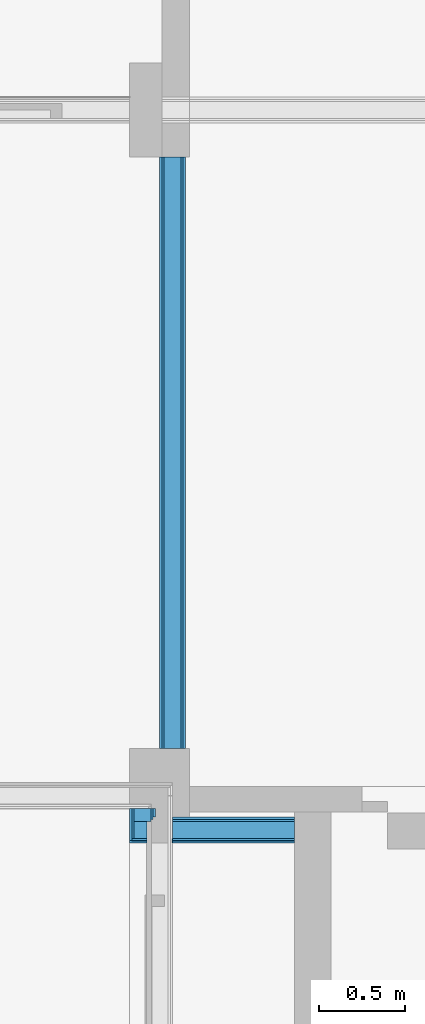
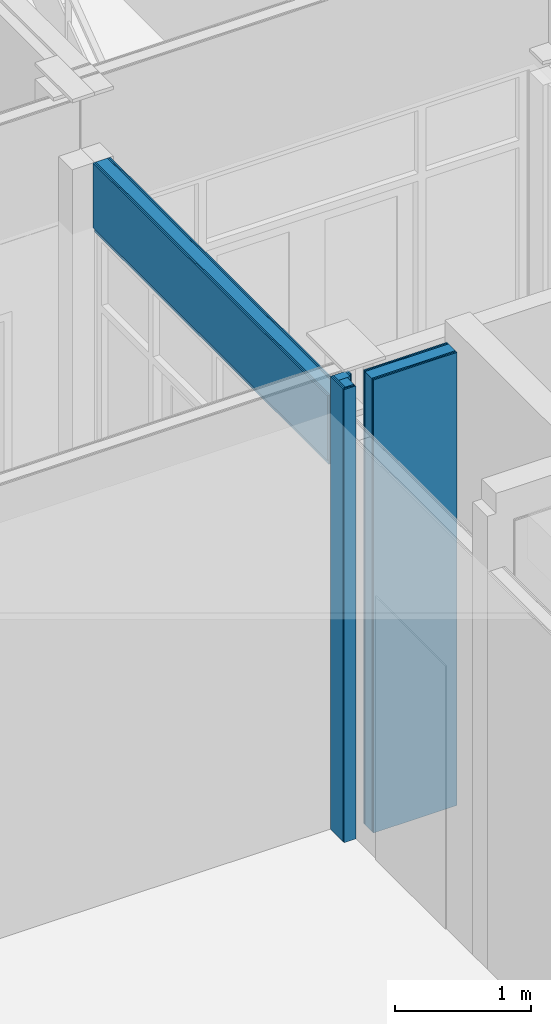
# One storey, part 65 of 109: 15 building element parts, 1 opening, 3 elements without a shape of their own.
"""IFC2X3 building model written with IfcOpenShell, lengths in millimetres."""

from ifc_helpers import new_model, entity, si_unit, converted_unit, derived_unit, money_unit, direction, frame, origin_with_axes, place, context, subcontext, project, spatial, faceted_brep, material, type_object, element, aggregate, save


model = new_model("IFC2X3")

# Units and contexts
model_context = context("Model", 3, precision=0.01, world=origin_with_axes(), true_north=direction((0.0, 1.0)))
body_context = subcontext(model_context, "Body", "Model", "MODEL_VIEW")
ifc_project = project(units=[si_unit("LENGTHUNIT", "METRE", prefix="MILLI"), si_unit("AREAUNIT", "SQUARE_METRE"), si_unit("VOLUMEUNIT", "CUBIC_METRE"), converted_unit("PLANEANGLEUNIT", "DEGREE", entity("IfcPlaneAngleMeasure", 0.0174532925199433), si_unit("PLANEANGLEUNIT", "RADIAN"), dimensions=[0, 0, 0, 0, 0, 0, 0]), money_unit("EUR"), converted_unit("TIMEUNIT", "Year", entity("IfcTimeMeasure", 31557600.0), si_unit("TIMEUNIT", "SECOND"), dimensions=[0, 0, 1, 0, 0, 0, 0]), si_unit("MASSUNIT", "GRAM", prefix="KILO"), si_unit("THERMODYNAMICTEMPERATUREUNIT", "DEGREE_CELSIUS"), si_unit("LUMINOUSINTENSITYUNIT", "LUMEN"), si_unit("ENERGYUNIT", "JOULE", prefix="MEGA"), derived_unit("THERMALCONDUCTANCEUNIT", [(si_unit("POWERUNIT", "WATT"), 1), (si_unit("LENGTHUNIT", "METRE"), -1), (si_unit("THERMODYNAMICTEMPERATUREUNIT", "KELVIN"), -1)]), derived_unit("SPECIFICHEATCAPACITYUNIT", [(si_unit("ENERGYUNIT", "JOULE"), 1), (si_unit("MASSUNIT", "GRAM", prefix="KILO"), -1), (si_unit("THERMODYNAMICTEMPERATUREUNIT", "KELVIN"), -1)]), derived_unit("MASSDENSITYUNIT", [(si_unit("MASSUNIT", "GRAM", prefix="KILO"), 1), (si_unit("VOLUMEUNIT", "CUBIC_METRE"), -1)])], contexts=[model_context])

# Site, building, storey
site_placement = place(None, origin_with_axes())
site = spatial("IfcSite", under=ifc_project, at=site_placement, Name="<site naam>", CompositionType="ELEMENT")
building_placement = place(site_placement, origin_with_axes())
building = spatial("IfcBuilding", under=site, at=building_placement, Name="<Naam gebouw>", CompositionType="ELEMENT")
storey_placement = place(building_placement, origin_with_axes())
storey = spatial("IfcBuildingStorey", under=building, at=storey_placement, Name="00 Begane grond", CompositionType="ELEMENT", Elevation=0.0)

# Wall, opening, building element parts
wall_type = type_object("IfcWallType", Name="MS-01 GF 150 ECO DGS/2.100.2.A 150", PredefinedType="NOTDEFINED")
wall_1_placement = place(storey_placement, frame((48000.00000000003, 8275.000000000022, 0.0), z_axis=(0.0, 0.0, 1.0), x_axis=(0.0, 1.0, 0.0)))
wall_1 = element("IfcWall", 1, at=wall_1_placement, inside=storey, type_object=wall_type, Name="22_Binnenwand_MS-01")
opening_placement = place(wall_1_placement, frame((1725.0, 0.0, 0.0), z_axis=(0.0, 0.0, 1.0), x_axis=(1.0, 0.0, 0.0)))
element("IfcOpeningElement", 2, at=opening_placement, cuts=wall_1, Name="22_BI-D-03_305", context=body_context, shape_type="Brep", body=[
    faceted_brep([(1724.999999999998, 0.9999999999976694, 3000.0), (1724.999999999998, 0.9999999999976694, 0.0), (-1724.999999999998, 0.9999999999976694, 0.0), (-1724.999999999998, 0.9999999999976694, 3000.0), (1724.999999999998, -150.9999999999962, 3000.0), (1724.999999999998, -150.9999999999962, 0.0), (-1724.999999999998, -150.9999999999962, 0.0), (-1724.999999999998, -150.9999999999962, 3000.0)], [[[0, 1, 2, 3]], [[4, 5, 1, 0]], [[5, 6, 2, 1]], [[6, 7, 3, 2]], [[7, 4, 0, 3]], [[6, 5, 4, 7]]]),
])
ifc_material_1 = material(Name="gipsplaat")
building_element_part_1_placement = place(wall_1_placement, origin_with_axes())
building_element_part_1 = element("IfcBuildingElementPart", 3, at=building_element_part_1_placement, material=ifc_material_1, Name="gipsplaat", context=body_context, shape_type="Brep", body=[
    faceted_brep([(3449.999999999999, 0.0, 3620.0), (3449.999999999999, -12.50000000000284, 3620.0), (3449.999999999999, -12.50000000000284, 3040.0), (3449.999999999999, 0.0, 3040.0), (0.0, -12.50000000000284, 3620.0), (0.0, 0.0, 3620.0), (0.0, -12.50000000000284, 3040.0), (0.0, 0.0, 3040.0)], [[[0, 1, 2, 3]], [[4, 1, 0, 5]], [[1, 4, 6, 2]], [[7, 3, 2, 6]], [[5, 0, 3, 7]], [[4, 5, 7, 6]]]),
    faceted_brep([(0.0, -12.50000000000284, 3.000000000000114), (3449.999999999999, -12.50000000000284, 3.000000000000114), (3449.999999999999, -12.50000000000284, 3000.0), (0.0, -12.50000000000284, 3000.0), (3449.999999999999, 0.0, 3.000000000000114), (0.0, 0.0, 3.000000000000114), (3449.999999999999, 0.0, 3000.0), (0.0, 0.0, 3000.0)], [[[0, 1, 2, 3]], [[4, 1, 0, 5]], [[1, 4, 6, 2]], [[3, 2, 6, 7]], [[5, 0, 3, 7]], [[4, 5, 7, 6]]]),
])
building_element_part_2_placement = place(wall_1_placement, origin_with_axes())
building_element_part_2 = element("IfcBuildingElementPart", 4, at=building_element_part_2_placement, material=ifc_material_1, Name="gipsplaat", context=body_context, shape_type="Brep", body=[
    faceted_brep([(3449.999999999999, -12.50000000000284, 3620.0), (3449.999999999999, -24.99999999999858, 3620.0), (3449.999999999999, -24.99999999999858, 3.000000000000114), (3449.999999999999, -12.50000000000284, 3.000000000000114), (0.0, -24.99999999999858, 3620.0), (0.0, -12.50000000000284, 3620.0), (0.0, -24.99999999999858, 3.000000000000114), (0.0, -12.50000000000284, 3.000000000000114)], [[[0, 1, 2, 3]], [[4, 1, 0, 5]], [[1, 4, 6, 2]], [[7, 3, 2, 6]], [[5, 0, 3, 7]], [[4, 5, 7, 6]]]),
])
ifc_material_2 = material(Name="isolatie_steenwol LSW")
building_element_part_3_placement = place(wall_1_placement, origin_with_axes())
building_element_part_3 = element("IfcBuildingElementPart", 5, at=building_element_part_3_placement, material=ifc_material_2, Name="isolatie_steenwol LSW", context=body_context, shape_type="Brep", body=[
    faceted_brep([(3449.999999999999, -24.99999999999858, 3620.0), (3450.000002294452, -125.0, 3620.0), (3450.000020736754, -125.0, 3.000000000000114), (3450.000020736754, -37.38026770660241, 3.000000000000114), (3450.000020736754, -37.38026770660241, 0.0), (3450.000018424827, -36.00000000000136, 0.0), (3449.999999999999, -36.00000000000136, 3.000000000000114), (3449.999999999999, -24.99999999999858, 3.000000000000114), (0.0, -125.0, 3620.0), (0.0, -24.99999999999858, 3620.0), (0.0, -125.0, 3.000000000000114), (0.0, -37.38026770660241, 3.000000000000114), (0.0, -37.38026770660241, 0.0), (0.0, -36.00000000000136, 0.0), (0.0, -36.00000000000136, 3.000000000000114), (0.0, -24.99999999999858, 3.000000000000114)], [[[0, 1, 2, 3, 4, 5, 6, 7]], [[8, 1, 0, 9]], [[1, 8, 10, 2]], [[11, 3, 2, 10]], [[12, 4, 3, 11]], [[12, 13, 5, 4]], [[14, 6, 5, 13]], [[15, 7, 6, 14]], [[9, 0, 7, 15]], [[8, 9, 15, 14, 13, 12, 11, 10]]]),
])
building_element_part_4_placement = place(wall_1_placement, origin_with_axes())
building_element_part_4 = element("IfcBuildingElementPart", 6, at=building_element_part_4_placement, material=ifc_material_1, Name="gipsplaat", context=body_context, shape_type="Brep", body=[
    faceted_brep([(3450.000002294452, -125.0, 3620.0), (3450.000002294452, -137.5000000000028, 3620.0), (3450.000020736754, -137.5000000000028, 3.000000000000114), (3450.000020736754, -125.0, 3.000000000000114), (0.0, -137.5000000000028, 3620.0), (0.0, -125.0, 3620.0), (0.0, -137.5000000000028, 3.000000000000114), (0.0, -125.0, 3.000000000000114)], [[[0, 1, 2, 3]], [[4, 1, 0, 5]], [[1, 4, 6, 2]], [[7, 3, 2, 6]], [[5, 0, 3, 7]], [[4, 5, 7, 6]]]),
])
building_element_part_5_placement = place(wall_1_placement, origin_with_axes())
building_element_part_5 = element("IfcBuildingElementPart", 7, at=building_element_part_5_placement, material=ifc_material_1, Name="gipsplaat", context=body_context, shape_type="Brep", body=[
    faceted_brep([(3450.000002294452, -137.5000000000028, 3620.0), (3450.000002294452, -149.9999999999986, 3620.0), (3450.000020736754, -149.9999999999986, 3.000000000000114), (3450.000020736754, -137.5000000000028, 3.000000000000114), (0.0, -149.9999999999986, 3620.0), (0.0, -137.5000000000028, 3620.0), (0.0, -149.9999999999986, 3.000000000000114), (0.0, -137.5000000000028, 3.000000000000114)], [[[0, 1, 2, 3]], [[4, 1, 0, 5]], [[1, 4, 6, 2]], [[7, 3, 2, 6]], [[5, 0, 3, 7]], [[4, 5, 7, 6]]]),
])
aggregate(wall_1, [building_element_part_1, building_element_part_2, building_element_part_3, building_element_part_4, building_element_part_5])

# Wall, building element parts
wall_2_placement = place(storey_placement, frame((48786.00000000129, 7725.000000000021, 0.0), z_axis=(0.0, 0.0, 1.0), x_axis=(-1.0, 0.0, 0.0)))
wall_2 = element("IfcWall", 8, at=wall_2_placement, inside=storey, type_object=wall_type, Name="22_Binnenwand_MS-01")
building_element_part_6_placement = place(wall_2_placement, origin_with_axes())
building_element_part_6 = element("IfcBuildingElementPart", 9, at=building_element_part_6_placement, material=ifc_material_1, Name="gipsplaat", context=body_context, shape_type="Brep", body=[
    faceted_brep([(711.0000000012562, 0.0, 4070.0), (0.0, 0.0, 4070.0), (0.0, -12.50000000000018, 4070.0), (711.0000000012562, -12.50000000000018, 4070.0), (711.0000000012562, 0.0, 0.0), (0.0, 0.0, 0.0), (0.0, -12.50000000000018, 0.0), (711.0000000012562, -12.50000000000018, 0.0)], [[[0, 1, 2, 3]], [[4, 5, 1, 0]], [[2, 1, 5, 6]], [[3, 2, 6, 7]], [[3, 7, 4, 0]], [[7, 6, 5, 4]]]),
    faceted_brep([(961.0000000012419, 0.0, 4070.0), (861.0000000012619, 0.0, 4070.0), (861.0000000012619, -12.50000000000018, 4070.0), (961.0000000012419, -12.50000000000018, 4070.0), (961.0000000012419, 0.0, 0.0), (861.0000000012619, 0.0, 0.0), (861.0000000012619, -12.50000000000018, 0.0), (961.0000000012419, -12.50000000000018, 0.0)], [[[0, 1, 2, 3]], [[4, 5, 1, 0]], [[2, 1, 5, 6]], [[3, 2, 6, 7]], [[3, 7, 4, 0]], [[7, 6, 5, 4]]]),
])
building_element_part_7_placement = place(wall_2_placement, origin_with_axes())
building_element_part_7 = element("IfcBuildingElementPart", 10, at=building_element_part_7_placement, material=ifc_material_2, Name="isolatie_steenwol LSW", context=body_context, shape_type="Brep", body=[
    faceted_brep([(711.0000000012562, -24.99999999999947, 4070.0), (0.0, -24.99999999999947, 4070.0), (0.0, -125.0, 4070.0), (711.0000000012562, -125.0, 4070.0), (711.0000000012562, -25.00000000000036, 0.0), (0.0, -25.00000000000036, 0.0), (0.0, -125.0, 0.0), (711.0000000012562, -125.0, 0.0)], [[[0, 1, 2, 3]], [[4, 5, 1, 0]], [[2, 1, 5, 6]], [[3, 2, 6, 7]], [[3, 7, 4, 0]], [[7, 6, 5, 4]]]),
    faceted_brep([(936.0000000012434, -24.99999999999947, 4070.0), (861.0000000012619, -24.99999999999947, 4070.0), (861.0000000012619, -125.0, 4070.0), (936.0000000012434, -125.0, 4070.0), (936.0000000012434, -25.00000000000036, 0.0), (861.0000000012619, -25.00000000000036, 0.0), (861.0000000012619, -125.0, 0.0), (936.0000000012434, -125.0, 0.0)], [[[0, 1, 2, 3]], [[4, 5, 1, 0]], [[2, 1, 5, 6]], [[3, 2, 6, 7]], [[3, 7, 4, 0]], [[7, 6, 5, 4]]]),
])
building_element_part_8_placement = place(wall_2_placement, origin_with_axes())
building_element_part_8 = element("IfcBuildingElementPart", 11, at=building_element_part_8_placement, material=ifc_material_1, Name="gipsplaat", context=body_context, shape_type="Brep", body=[
    faceted_brep([(711.0000000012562, -12.50000000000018, 4070.0), (0.0, -12.50000000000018, 4070.0), (0.0, -24.99999999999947, 4070.0), (711.0000000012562, -24.99999999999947, 4070.0), (711.0000000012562, -12.50000000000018, 0.0), (0.0, -12.50000000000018, 0.0), (0.0, -25.00000000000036, 0.0), (711.0000000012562, -25.00000000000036, 0.0)], [[[0, 1, 2, 3]], [[4, 5, 1, 0]], [[2, 1, 5, 6]], [[3, 2, 6, 7]], [[3, 7, 4, 0]], [[7, 6, 5, 4]]]),
    faceted_brep([(948.5000000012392, -12.50000000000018, 4070.0), (861.0000000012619, -12.50000000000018, 4070.0), (861.0000000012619, -24.99999999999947, 4070.0), (948.5000000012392, -24.99999999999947, 4070.0), (948.5000000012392, -12.50000000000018, 0.0), (861.0000000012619, -12.50000000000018, 0.0), (861.0000000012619, -25.00000000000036, 0.0), (948.5000000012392, -25.00000000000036, 0.0)], [[[0, 1, 2, 3]], [[4, 5, 1, 0]], [[2, 1, 5, 6]], [[3, 2, 6, 7]], [[3, 7, 4, 0]], [[7, 6, 5, 4]]]),
])
building_element_part_9_placement = place(wall_2_placement, origin_with_axes())
building_element_part_9 = element("IfcBuildingElementPart", 12, at=building_element_part_9_placement, material=ifc_material_1, Name="gipsplaat", context=body_context, shape_type="Brep", body=[
    faceted_brep([(711.0000000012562, -125.0, 4070.0), (0.0, -125.0, 4070.0), (0.0, -137.5000000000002, 4070.0), (711.0000000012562, -137.5000000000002, 4070.0), (711.0000000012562, -125.0, 0.0), (0.0, -125.0, 0.0), (0.0, -137.5000000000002, 0.0), (711.0000000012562, -137.5000000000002, 0.0)], [[[0, 1, 2, 3]], [[4, 5, 1, 0]], [[2, 1, 5, 6]], [[3, 2, 6, 7]], [[3, 7, 4, 0]], [[7, 6, 5, 4]]]),
])
building_element_part_10_placement = place(wall_2_placement, origin_with_axes())
building_element_part_10 = element("IfcBuildingElementPart", 13, at=building_element_part_10_placement, material=ifc_material_1, Name="gipsplaat", context=body_context, shape_type="Brep", body=[
    faceted_brep([(711.0000000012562, -137.5000000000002, 4070.0), (0.0, -137.5000000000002, 4070.0), (0.0, -149.9999999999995, 4070.0), (711.0000000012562, -149.9999999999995, 4070.0), (711.0000000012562, -137.5000000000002, 0.0), (0.0, -137.5000000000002, 0.0), (0.0, -150.0000000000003, 0.0), (711.0000000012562, -150.0000000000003, 0.0)], [[[0, 1, 2, 3]], [[4, 5, 1, 0]], [[2, 1, 5, 6]], [[3, 2, 6, 7]], [[3, 7, 4, 0]], [[7, 6, 5, 4]]]),
])
aggregate(wall_2, [building_element_part_6, building_element_part_7, building_element_part_8, building_element_part_9, building_element_part_10])

wall_3_placement = place(storey_placement, frame((47825.00000000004, 7725.000000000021, 0.0), z_axis=(0.0, 0.0, 1.0), x_axis=(0.0, 1.0, 0.0)))
wall_3 = element("IfcWall", 14, at=wall_3_placement, inside=storey, type_object=wall_type, Name="22_Binnenwand_MS-01")
building_element_part_11_placement = place(wall_3_placement, origin_with_axes())
building_element_part_11 = element("IfcBuildingElementPart", 15, at=building_element_part_11_placement, material=ifc_material_1, Name="gipsplaat", context=body_context, shape_type="Brep", body=[
    faceted_brep([(200.0000000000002, 0.0, 4070.0), (12.50000000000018, 0.0, 4070.0), (12.50000000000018, -12.50000000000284, 4070.0), (200.0000000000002, -12.50000000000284, 4070.0), (200.0000000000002, 0.0, 0.0), (12.50000000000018, 0.0, 0.0), (12.50000000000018, -12.50000000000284, 0.0), (200.0000000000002, -12.50000000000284, 0.0)], [[[0, 1, 2, 3]], [[4, 5, 1, 0]], [[2, 1, 5, 6]], [[3, 2, 6, 7]], [[3, 7, 4, 0]], [[7, 6, 5, 4]]]),
])
building_element_part_12_placement = place(wall_3_placement, origin_with_axes())
building_element_part_12 = element("IfcBuildingElementPart", 16, at=building_element_part_12_placement, material=ifc_material_2, Name="isolatie_steenwol LSW", context=body_context, shape_type="Brep", body=[
    faceted_brep([(200.0000000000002, -24.99999999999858, 4070.0), (125.0, -24.99999999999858, 4070.0), (125.0, -125.0, 4070.0), (200.0000000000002, -125.0, 4070.0), (200.0000000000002, -24.99999999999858, 0.0), (125.0, -24.99999999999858, 0.0), (125.0, -125.0, 0.0), (200.0000000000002, -125.0, 0.0)], [[[0, 1, 2, 3]], [[4, 5, 1, 0]], [[2, 1, 5, 6]], [[3, 2, 6, 7]], [[3, 7, 4, 0]], [[7, 6, 5, 4]]]),
])
building_element_part_13_placement = place(wall_3_placement, origin_with_axes())
building_element_part_13 = element("IfcBuildingElementPart", 17, at=building_element_part_13_placement, material=ifc_material_1, Name="gipsplaat", context=body_context, shape_type="Brep", body=[
    faceted_brep([(200.0000000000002, -125.0, 4070.0), (137.5000000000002, -125.0, 4070.0), (137.5000000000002, -137.5000000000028, 4070.0), (200.0000000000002, -137.5000000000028, 4070.0), (200.0000000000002, -125.0, 0.0), (137.5000000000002, -125.0, 0.0), (137.5000000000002, -137.5000000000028, 0.0), (200.0000000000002, -137.5000000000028, 0.0)], [[[0, 1, 2, 3]], [[4, 5, 1, 0]], [[2, 1, 5, 6]], [[3, 2, 6, 7]], [[3, 7, 4, 0]], [[7, 6, 5, 4]]]),
])
building_element_part_14_placement = place(wall_3_placement, origin_with_axes())
building_element_part_14 = element("IfcBuildingElementPart", 18, at=building_element_part_14_placement, material=ifc_material_1, Name="gipsplaat", context=body_context, shape_type="Brep", body=[
    faceted_brep([(200.0000000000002, -12.50000000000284, 4070.0), (25.00000000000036, -12.50000000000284, 4070.0), (25.00000000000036, -24.99999999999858, 4070.0), (200.0000000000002, -24.99999999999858, 4070.0), (200.0000000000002, -12.50000000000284, 0.0), (25.00000000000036, -12.50000000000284, 0.0), (25.00000000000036, -24.99999999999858, 0.0), (200.0000000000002, -24.99999999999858, 0.0)], [[[0, 1, 2, 3]], [[4, 5, 1, 0]], [[2, 1, 5, 6]], [[3, 2, 6, 7]], [[3, 7, 4, 0]], [[7, 6, 5, 4]]]),
])
building_element_part_15_placement = place(wall_3_placement, origin_with_axes())
building_element_part_15 = element("IfcBuildingElementPart", 19, at=building_element_part_15_placement, material=ifc_material_1, Name="gipsplaat", context=body_context, shape_type="Brep", body=[
    faceted_brep([(200.0000000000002, -137.5000000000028, 4070.0), (150.0000000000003, -137.5000000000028, 4070.0), (150.0000000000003, -149.9999999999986, 4070.0), (200.0000000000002, -149.9999999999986, 4070.0), (200.0000000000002, -137.5000000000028, 0.0), (150.0000000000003, -137.5000000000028, 0.0), (150.0000000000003, -149.9999999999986, 0.0), (200.0000000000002, -149.9999999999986, 0.0)], [[[0, 1, 2, 3]], [[4, 5, 1, 0]], [[2, 1, 5, 6]], [[3, 2, 6, 7]], [[3, 7, 4, 0]], [[7, 6, 5, 4]]]),
])
aggregate(wall_3, [building_element_part_11, building_element_part_12, building_element_part_13, building_element_part_14, building_element_part_15])

save(model, "model.ifc")
